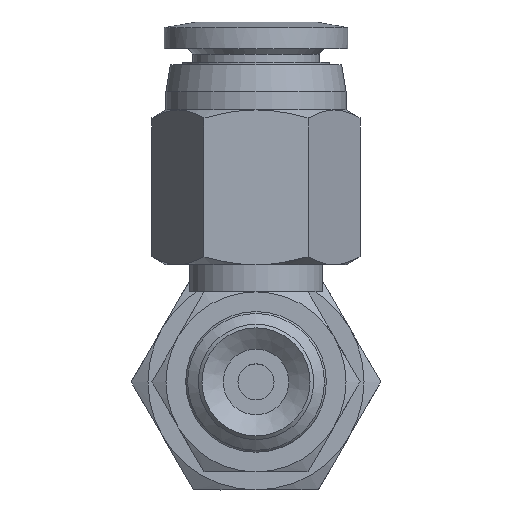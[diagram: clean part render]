
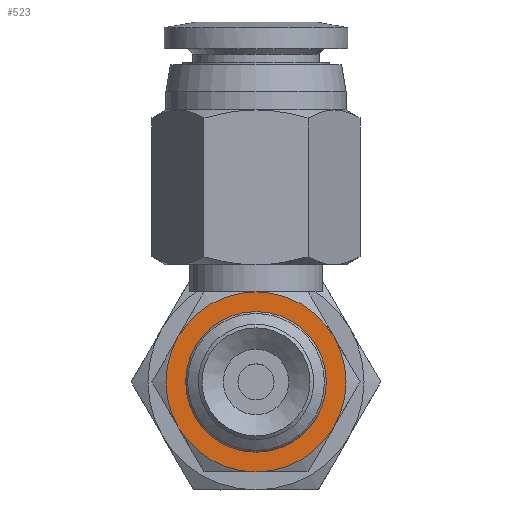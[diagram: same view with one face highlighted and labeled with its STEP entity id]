
A CAD part, front view. The second image highlights one B-rep face of the part: STEP entity #523.
In plain terms, the highlighted planar face has unit normal (0, -1, 0).
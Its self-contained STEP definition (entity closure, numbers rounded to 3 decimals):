
#523=ADVANCED_FACE('',(#781,#782),#783,.T.);
#781=FACE_BOUND('',#1198,.T.);
#782=FACE_OUTER_BOUND('',#1199,.T.);
#783=PLANE('',#1200);
#1198=EDGE_LOOP('',(#2137));
#1199=EDGE_LOOP('',(#2138,#2139,#2140,#2141,#2142,#2143));
#1200=AXIS2_PLACEMENT_3D('',#2144,#2145,#2146);
#2137=ORIENTED_EDGE('',*,*,#2907,.F.);
#2138=ORIENTED_EDGE('',*,*,#2909,.T.);
#2139=ORIENTED_EDGE('',*,*,#2867,.T.);
#2140=ORIENTED_EDGE('',*,*,#2851,.T.);
#2141=ORIENTED_EDGE('',*,*,#2885,.T.);
#2142=ORIENTED_EDGE('',*,*,#2879,.T.);
#2143=ORIENTED_EDGE('',*,*,#2873,.T.);
#2144=CARTESIAN_POINT('',(2.0,0.,0.0));
#2145=DIRECTION('',(0.0,-1.0,0.0));
#2146=DIRECTION('',(0.0,0.0,-1.0));
#2851=EDGE_CURVE('',#3208,#3210,#3212,.T.);
#2867=EDGE_CURVE('',#3228,#3208,#3240,.T.);
#2873=EDGE_CURVE('',#3250,#3241,#3251,.T.);
#2879=EDGE_CURVE('',#3260,#3250,#3261,.T.);
#2885=EDGE_CURVE('',#3210,#3260,#3268,.T.);
#2907=EDGE_CURVE('',#3309,#3309,#3310,.T.);
#2909=EDGE_CURVE('',#3241,#3228,#3313,.T.);
#3208=VERTEX_POINT('',#3996);
#3210=VERTEX_POINT('',#4000);
#3212=CIRCLE('',#4004,5.0);
#3228=VERTEX_POINT('',#4030);
#3240=CIRCLE('',#4054,5.0);
#3241=VERTEX_POINT('',#4055);
#3250=VERTEX_POINT('',#4073);
#3251=CIRCLE('',#4074,5.0);
#3260=VERTEX_POINT('',#4092);
#3261=CIRCLE('',#4093,5.0);
#3268=CIRCLE('',#4108,5.0);
#3309=VERTEX_POINT('',#4164);
#3310=CIRCLE('',#4165,2.0);
#3313=CIRCLE('',#4168,5.0);
#3996=CARTESIAN_POINT('',(4.33,0.0,2.5));
#4000=CARTESIAN_POINT('',(0.0,0.0,5.0));
#4004=AXIS2_PLACEMENT_3D('',#4926,#4927,#4928);
#4030=CARTESIAN_POINT('',(4.33,0.0,-2.5));
#4054=AXIS2_PLACEMENT_3D('',#4939,#4940,#4941);
#4055=CARTESIAN_POINT('',(0.0,0.0,-5.0));
#4073=CARTESIAN_POINT('',(-4.33,0.0,-2.5));
#4074=AXIS2_PLACEMENT_3D('',#4943,#4944,#4945);
#4092=CARTESIAN_POINT('',(-4.33,0.,2.5));
#4093=AXIS2_PLACEMENT_3D('',#4947,#4948,#4949);
#4108=AXIS2_PLACEMENT_3D('',#4953,#4954,#4955);
#4164=CARTESIAN_POINT('',(0.0,0.,-2.0));
#4165=AXIS2_PLACEMENT_3D('',#4989,#4990,#4991);
#4168=AXIS2_PLACEMENT_3D('',#4995,#4996,#4997);
#4926=CARTESIAN_POINT('',(0.0,0.,0.0));
#4927=DIRECTION('',(0.0,-1.0,0.0));
#4928=DIRECTION('',(0.0,0.0,-1.0));
#4939=CARTESIAN_POINT('',(0.0,0.,0.0));
#4940=DIRECTION('',(0.0,-1.0,0.0));
#4941=DIRECTION('',(0.0,0.0,-1.0));
#4943=CARTESIAN_POINT('',(0.0,0.,0.0));
#4944=DIRECTION('',(0.0,-1.0,0.0));
#4945=DIRECTION('',(0.0,0.0,-1.0));
#4947=CARTESIAN_POINT('',(0.0,0.,0.0));
#4948=DIRECTION('',(0.0,-1.0,0.0));
#4949=DIRECTION('',(0.0,0.0,-1.0));
#4953=CARTESIAN_POINT('',(0.0,0.,0.0));
#4954=DIRECTION('',(0.0,-1.0,0.0));
#4955=DIRECTION('',(0.0,0.0,-1.0));
#4989=CARTESIAN_POINT('',(0.0,0.,0.0));
#4990=DIRECTION('',(0.0,-1.0,0.0));
#4991=DIRECTION('',(0.0,0.0,-1.0));
#4995=CARTESIAN_POINT('',(0.0,0.,0.0));
#4996=DIRECTION('',(0.0,-1.0,0.0));
#4997=DIRECTION('',(0.0,0.0,-1.0));
